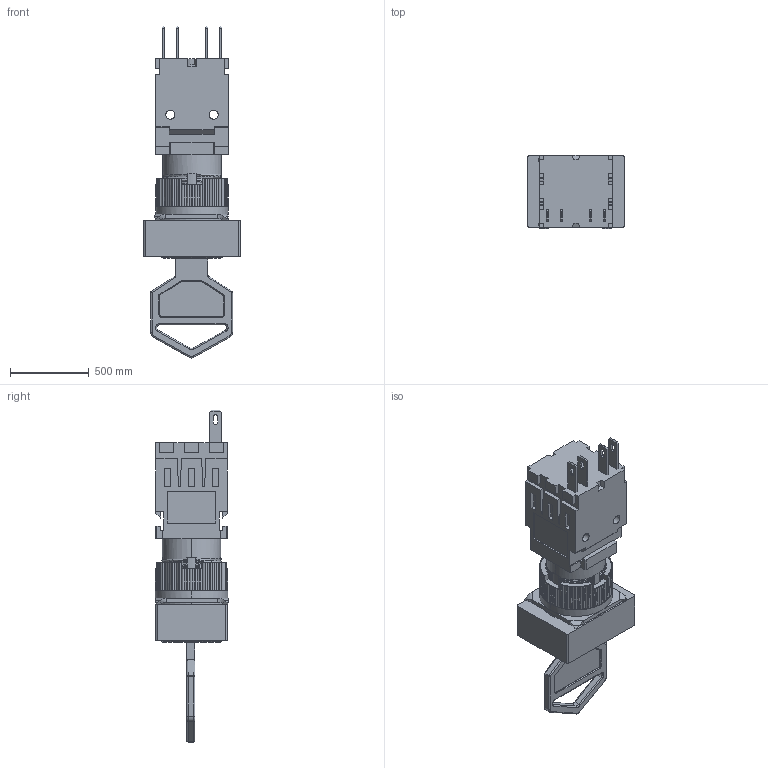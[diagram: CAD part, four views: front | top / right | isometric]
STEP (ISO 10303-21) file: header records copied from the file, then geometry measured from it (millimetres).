
FILE_DESCRIPTION((''),'2;1');
FILE_NAME('ASM0006_ASM','2016-06-12T',('Administrator'),(''),'PRO/ENGINEER BY PARAMETRIC TECHNOLOGY CORPORATION, 2012360','PRO/ENGINEER BY PARAMETRIC TECHNOLOGY CORPORATION, 2012360','');
FILE_SCHEMA(('CONFIG_CONTROL_DESIGN'));
Length unit declared in the file: inch
Products named in the file (1): ASM0006_ASM
Bounding box: 609.6 x 468.06 x 2105.96 mm (x, y, z)
Volume: 245586017 mm3; surface area: 5016559.5 mm2
Topology: 1 solids, 5 shells, 988 faces, 2656 edges, 1689 vertices
Faces by surface type: plane 478, cylinder 391, bspline 97, torus 12, cone 6, sphere 4
Entity records: 42435 total; most frequent: CARTESIAN_POINT 18406, ORIENTED_EDGE 5312, DIRECTION 4620, EDGE_CURVE 2656, VERTEX_POINT 1689, AXIS2_PLACEMENT_3D 1598, VECTOR 1424, LINE 1424
